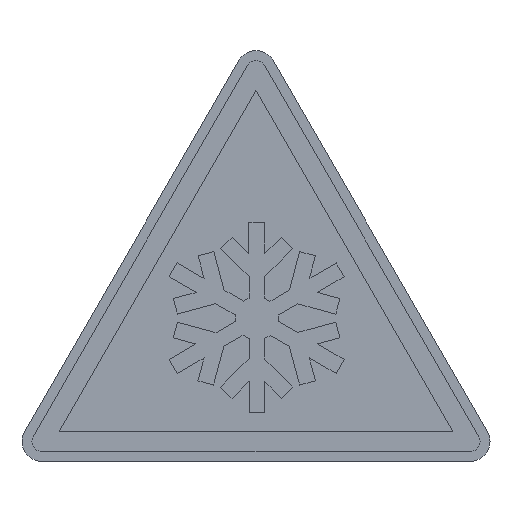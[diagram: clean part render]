
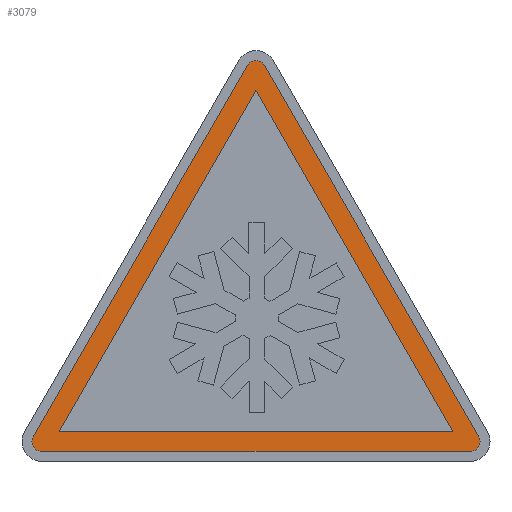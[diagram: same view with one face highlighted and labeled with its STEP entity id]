
A CAD part, top view. The second image highlights one B-rep face of the part: STEP entity #3079.
In plain terms, the highlighted planar face has unit normal (0, 0, 1).
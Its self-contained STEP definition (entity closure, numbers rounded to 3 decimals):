
#41 = DIRECTION ( 'NONE',  ( -0.5, -0.866, 0. ) ) ;
#100 = CARTESIAN_POINT ( 'NONE',  ( -21.536, 1., 0.22 ) ) ;
#146 = ORIENTED_EDGE ( 'NONE', *, *, #4333, .F. ) ;
#265 = DIRECTION ( 'NONE',  ( 1., 0., 0. ) ) ;
#281 = CARTESIAN_POINT ( 'NONE',  ( -22.536, 2., 0.22 ) ) ;
#361 = VERTEX_POINT ( 'NONE', #2721 ) ;
#369 = CARTESIAN_POINT ( 'NONE',  ( 0., 37.301, 0.22 ) ) ;
#430 = CARTESIAN_POINT ( 'NONE',  ( 22.402, 2.5, 0.22 ) ) ;
#453 = DIRECTION ( 'NONE',  ( -0.5, 0.866, 0. ) ) ;
#475 = VECTOR ( 'NONE', #453, 1000. ) ;
#498 = PLANE ( 'NONE',  #3959 ) ;
#554 = DIRECTION ( 'NONE',  ( 0., 0., 1. ) ) ;
#656 = VERTEX_POINT ( 'NONE', #824 ) ;
#749 = ORIENTED_EDGE ( 'NONE', *, *, #3859, .T. ) ;
#824 = CARTESIAN_POINT ( 'NONE',  ( 19.804, 3., 0.22 ) ) ;
#828 = DIRECTION ( 'NONE',  ( 0., 0., 1. ) ) ;
#879 = VECTOR ( 'NONE', #2397, 1000. ) ;
#947 = CARTESIAN_POINT ( 'NONE',  ( -21.536, 2., 0.22 ) ) ;
#1040 = DIRECTION ( 'NONE',  ( 0., 0., 1. ) ) ;
#1087 = DIRECTION ( 'NONE',  ( 0., 0., 1. ) ) ;
#1130 = ORIENTED_EDGE ( 'NONE', *, *, #2185, .T. ) ;
#1188 = ORIENTED_EDGE ( 'NONE', *, *, #4204, .T. ) ;
#1253 = AXIS2_PLACEMENT_3D ( 'NONE', #2891, #1965, #265 ) ;
#1261 = CARTESIAN_POINT ( 'NONE',  ( 22.402, 2.5, 0.22 ) ) ;
#1271 = EDGE_CURVE ( 'NONE', #2894, #4295, #3690, .T. ) ;
#1284 = VECTOR ( 'NONE', #41, 1000. ) ;
#1393 = CARTESIAN_POINT ( 'NONE',  ( -0.866, 39.801, 0.22 ) ) ;
#1434 = LINE ( 'NONE', #3091, #1284 ) ;
#1445 = VECTOR ( 'NONE', #2676, 1000. ) ;
#1486 = CIRCLE ( 'NONE', #2587, 1. ) ;
#1775 = LINE ( 'NONE', #430, #475 ) ;
#1815 = LINE ( 'NONE', #3554, #3962 ) ;
#1908 = CIRCLE ( 'NONE', #3240, 1. ) ;
#1919 = VECTOR ( 'NONE', #4141, 1000. ) ;
#1929 = CIRCLE ( 'NONE', #3839, 1. ) ;
#1950 = EDGE_CURVE ( 'NONE', #656, #2453, #1815, .T. ) ;
#1965 = DIRECTION ( 'NONE',  ( 0., 0., 1. ) ) ;
#2076 = DIRECTION ( 'NONE',  ( 1., 0., 0. ) ) ;
#2185 = EDGE_CURVE ( 'NONE', #4118, #3315, #1486, .T. ) ;
#2252 = FACE_BOUND ( 'NONE', #3092, .T. ) ;
#2397 = DIRECTION ( 'NONE',  ( 1., 0., 0. ) ) ;
#2401 = EDGE_CURVE ( 'NONE', #3155, #3461, #3145, .T. ) ;
#2441 = EDGE_LOOP ( 'NONE', ( #1188, #3353, #2462, #2659, #3739, #1130, #749 ) ) ;
#2449 = EDGE_CURVE ( 'NONE', #361, #656, #3284, .T. ) ;
#2453 = VERTEX_POINT ( 'NONE', #369 ) ;
#2462 = ORIENTED_EDGE ( 'NONE', *, *, #3268, .T. ) ;
#2480 = ORIENTED_EDGE ( 'NONE', *, *, #2449, .F. ) ;
#2587 = AXIS2_PLACEMENT_3D ( 'NONE', #2735, #1040, #2076 ) ;
#2659 = ORIENTED_EDGE ( 'NONE', *, *, #2401, .T. ) ;
#2676 = DIRECTION ( 'NONE',  ( -0.5, -0.866, 0. ) ) ;
#2721 = CARTESIAN_POINT ( 'NONE',  ( -19.804, 3., 0.22 ) ) ;
#2735 = CARTESIAN_POINT ( 'NONE',  ( 21.536, 2., 0.22 ) ) ;
#2769 = LINE ( 'NONE', #100, #1919 ) ;
#2783 = CARTESIAN_POINT ( 'NONE',  ( -22.402, 2.5, 0.22 ) ) ;
#2891 = CARTESIAN_POINT ( 'NONE',  ( -21.536, 2., 0.22 ) ) ;
#2894 = VERTEX_POINT ( 'NONE', #4112 ) ;
#2952 = CARTESIAN_POINT ( 'NONE',  ( 0.866, 39.801, 0.22 ) ) ;
#3005 = CARTESIAN_POINT ( 'NONE',  ( -19.804, 3., 0.22 ) ) ;
#3079 = ADVANCED_FACE ( 'NONE', ( #3563, #2252 ), #498, .T. ) ;
#3091 = CARTESIAN_POINT ( 'NONE',  ( 0., 37.301, 0.22 ) ) ;
#3092 = EDGE_LOOP ( 'NONE', ( #2480, #146, #4212 ) ) ;
#3145 = CIRCLE ( 'NONE', #1253, 1. ) ;
#3155 = VERTEX_POINT ( 'NONE', #281 ) ;
#3201 = DIRECTION ( 'NONE',  ( 1., 0., 0. ) ) ;
#3240 = AXIS2_PLACEMENT_3D ( 'NONE', #947, #554, #4341 ) ;
#3268 = EDGE_CURVE ( 'NONE', #4295, #3155, #1908, .T. ) ;
#3284 = LINE ( 'NONE', #3005, #879 ) ;
#3315 = VERTEX_POINT ( 'NONE', #1261 ) ;
#3353 = ORIENTED_EDGE ( 'NONE', *, *, #1271, .T. ) ;
#3461 = VERTEX_POINT ( 'NONE', #3540 ) ;
#3537 = VERTEX_POINT ( 'NONE', #2952 ) ;
#3540 = CARTESIAN_POINT ( 'NONE',  ( -21.536, 1., 0.22 ) ) ;
#3554 = CARTESIAN_POINT ( 'NONE',  ( 19.804, 3., 0.22 ) ) ;
#3557 = CARTESIAN_POINT ( 'NONE',  ( 21.536, 1., 0.22 ) ) ;
#3563 = FACE_OUTER_BOUND ( 'NONE', #2441, .T. ) ;
#3639 = CARTESIAN_POINT ( 'NONE',  ( 0., 39.301, 0.22 ) ) ;
#3690 = LINE ( 'NONE', #1393, #1445 ) ;
#3736 = EDGE_CURVE ( 'NONE', #3461, #4118, #2769, .T. ) ;
#3739 = ORIENTED_EDGE ( 'NONE', *, *, #3736, .T. ) ;
#3814 = DIRECTION ( 'NONE',  ( 1., 0., 0. ) ) ;
#3839 = AXIS2_PLACEMENT_3D ( 'NONE', #3639, #828, #3201 ) ;
#3859 = EDGE_CURVE ( 'NONE', #3315, #3537, #1775, .T. ) ;
#3959 = AXIS2_PLACEMENT_3D ( 'NONE', #4130, #1087, #3814 ) ;
#3962 = VECTOR ( 'NONE', #4201, 1000. ) ;
#4112 = CARTESIAN_POINT ( 'NONE',  ( -0.866, 39.801, 0.22 ) ) ;
#4118 = VERTEX_POINT ( 'NONE', #3557 ) ;
#4130 = CARTESIAN_POINT ( 'NONE',  ( 0., 39.301, 0.22 ) ) ;
#4141 = DIRECTION ( 'NONE',  ( 1., 0., 0. ) ) ;
#4201 = DIRECTION ( 'NONE',  ( -0.5, 0.866, 0. ) ) ;
#4204 = EDGE_CURVE ( 'NONE', #3537, #2894, #1929, .T. ) ;
#4212 = ORIENTED_EDGE ( 'NONE', *, *, #1950, .F. ) ;
#4295 = VERTEX_POINT ( 'NONE', #2783 ) ;
#4333 = EDGE_CURVE ( 'NONE', #2453, #361, #1434, .T. ) ;
#4341 = DIRECTION ( 'NONE',  ( 1., 0., 0. ) ) ;
